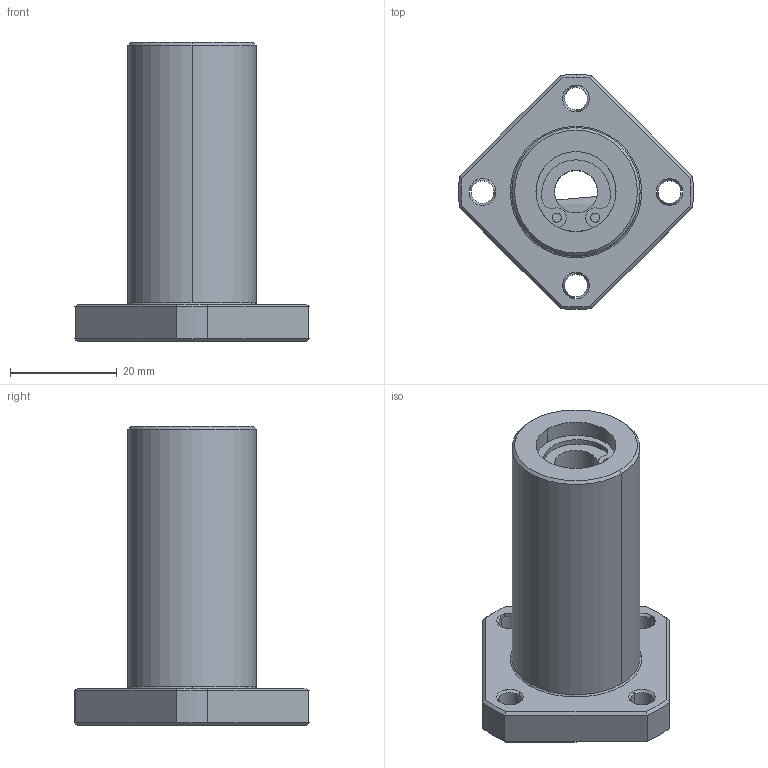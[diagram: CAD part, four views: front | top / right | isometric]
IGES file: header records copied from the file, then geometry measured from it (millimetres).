
Start section: 3D InterOp IGES (Version 21 0 1), Spatial Corp. Copyright (c) 1999-2007.
Global section: file name: LCF-8AVUU.igs; native system: Spatial Corp.; preprocessor: 3D InterOp GENERIC/IGES 3.0; author: Noname; organization: Noname; date: 20220517.163149; units: millimetre
Bounding box: 43.96 x 43.98 x 56 mm (x, y, z)
Surface area: 8631.4 mm2 (no closed solid volume)
Topology: 0 solids, 0 shells, 109 faces, 532 edges, 532 vertices
Faces by surface type: revolution 81, extrusion 28
